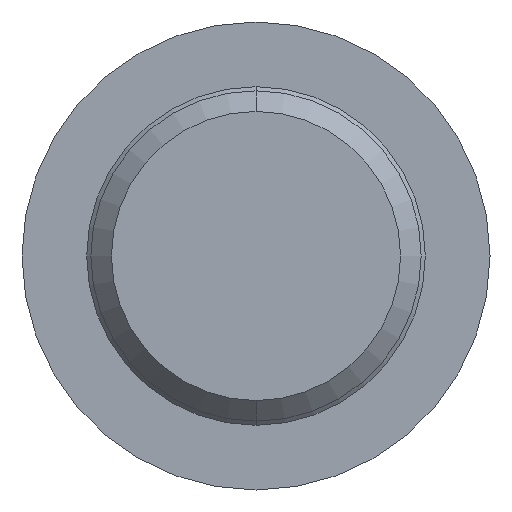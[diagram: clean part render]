
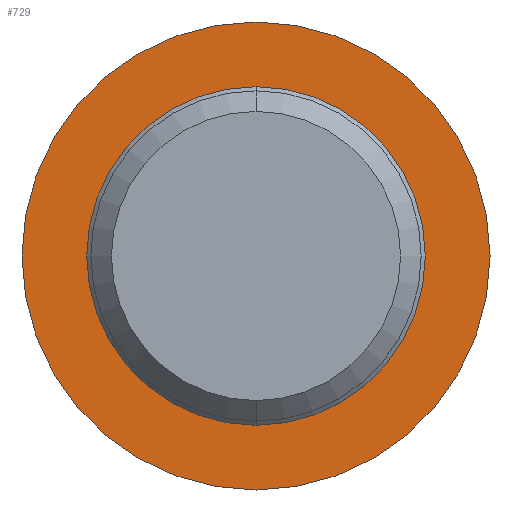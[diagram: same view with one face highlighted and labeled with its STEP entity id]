
A CAD part, front view. The second image highlights one B-rep face of the part: STEP entity #729.
In plain terms, the highlighted planar face has unit normal (0, -1, 0).
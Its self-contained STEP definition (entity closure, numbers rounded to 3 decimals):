
#10 = VERTEX_POINT ( 'NONE', #270 ) ;
#55 = FACE_BOUND ( 'NONE', #341, .T. ) ;
#80 = EDGE_LOOP ( 'NONE', ( #731, #253 ) ) ;
#87 = AXIS2_PLACEMENT_3D ( 'NONE', #166, #511, #635 ) ;
#128 = CARTESIAN_POINT ( 'NONE',  ( 0., 12., 6.15 ) ) ;
#151 = VERTEX_POINT ( 'NONE', #244 ) ;
#165 = AXIS2_PLACEMENT_3D ( 'NONE', #540, #426, #412 ) ;
#166 = CARTESIAN_POINT ( 'NONE',  ( 0., 12., 0. ) ) ;
#189 = VERTEX_POINT ( 'NONE', #449 ) ;
#208 = ORIENTED_EDGE ( 'NONE', *, *, #677, .T. ) ;
#213 = AXIS2_PLACEMENT_3D ( 'NONE', #679, #516, #335 ) ;
#244 = CARTESIAN_POINT ( 'NONE',  ( 0., 12., -6.15 ) ) ;
#250 = CIRCLE ( 'NONE', #715, 8.5 ) ;
#253 = ORIENTED_EDGE ( 'NONE', *, *, #647, .F. ) ;
#270 = CARTESIAN_POINT ( 'NONE',  ( 0., 12., 8.5 ) ) ;
#290 = PLANE ( 'NONE',  #165 ) ;
#302 = FACE_OUTER_BOUND ( 'NONE', #80, .T. ) ;
#312 = DIRECTION ( 'NONE',  ( 0., 0., 1. ) ) ;
#329 = VERTEX_POINT ( 'NONE', #128 ) ;
#335 = DIRECTION ( 'NONE',  ( 0., 0., 1. ) ) ;
#341 = EDGE_LOOP ( 'NONE', ( #662, #208 ) ) ;
#412 = DIRECTION ( 'NONE',  ( 0., 0., 1. ) ) ;
#426 = DIRECTION ( 'NONE',  ( 0., 1., 0. ) ) ;
#431 = DIRECTION ( 'NONE',  ( 0., 1., 0. ) ) ;
#449 = CARTESIAN_POINT ( 'NONE',  ( 0., 12., -8.5 ) ) ;
#461 = CARTESIAN_POINT ( 'NONE',  ( 0., 12., 0. ) ) ;
#472 = CIRCLE ( 'NONE', #213, 6.15 ) ;
#485 = AXIS2_PLACEMENT_3D ( 'NONE', #605, #431, #312 ) ;
#488 = EDGE_CURVE ( 'NONE', #10, #189, #664, .T. ) ;
#511 = DIRECTION ( 'NONE',  ( 0., 1., 0. ) ) ;
#516 = DIRECTION ( 'NONE',  ( 0., 1., 0. ) ) ;
#540 = CARTESIAN_POINT ( 'NONE',  ( 8.5, 12., 0. ) ) ;
#557 = CIRCLE ( 'NONE', #87, 6.15 ) ;
#562 = DIRECTION ( 'NONE',  ( 0., 1., 0. ) ) ;
#605 = CARTESIAN_POINT ( 'NONE',  ( 0., 12., 0. ) ) ;
#635 = DIRECTION ( 'NONE',  ( 0., 0., 1. ) ) ;
#647 = EDGE_CURVE ( 'NONE', #189, #10, #250, .T. ) ;
#662 = ORIENTED_EDGE ( 'NONE', *, *, #697, .T. ) ;
#664 = CIRCLE ( 'NONE', #485, 8.5 ) ;
#677 = EDGE_CURVE ( 'NONE', #151, #329, #472, .T. ) ;
#679 = CARTESIAN_POINT ( 'NONE',  ( 0., 12., 0. ) ) ;
#685 = DIRECTION ( 'NONE',  ( 0., 0., 1. ) ) ;
#697 = EDGE_CURVE ( 'NONE', #329, #151, #557, .T. ) ;
#715 = AXIS2_PLACEMENT_3D ( 'NONE', #461, #562, #685 ) ;
#729 = ADVANCED_FACE ( 'NONE', ( #302, #55 ), #290, .F. ) ;
#731 = ORIENTED_EDGE ( 'NONE', *, *, #488, .F. ) ;
